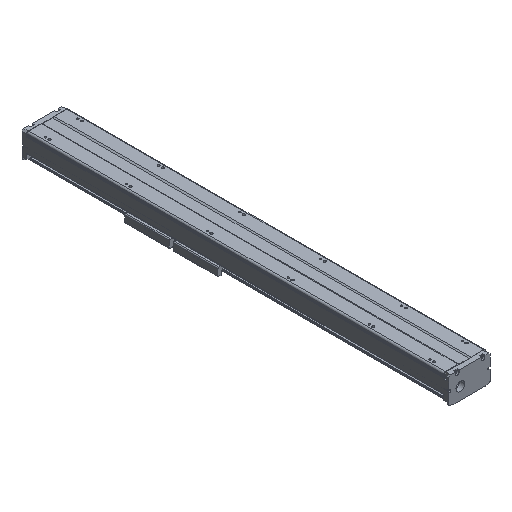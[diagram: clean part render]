
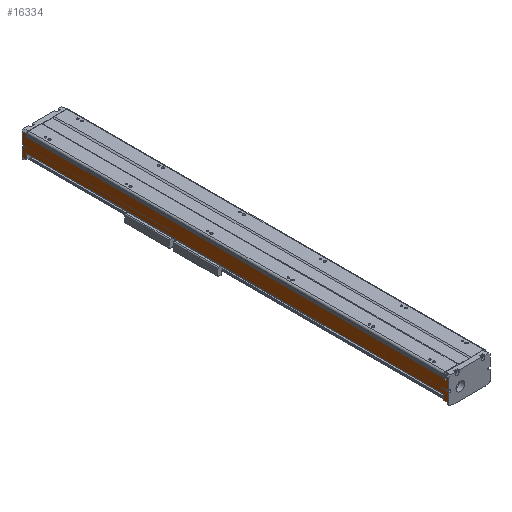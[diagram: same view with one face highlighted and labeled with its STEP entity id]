
A CAD part, isometric view. The second image highlights one B-rep face of the part: STEP entity #16334.
In plain terms, the highlighted planar face has unit normal (-1, 0, 0).
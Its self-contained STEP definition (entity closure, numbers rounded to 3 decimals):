
#3480=DIRECTION('',(0.,-1.,0.));
#3481=VECTOR('',#3480,1030.);
#3482=CARTESIAN_POINT('',(-54.192,384.5,-4.));
#3483=LINE('',#3482,#3481);
#3488=DIRECTION('',(0.,0.,1.));
#3489=VECTOR('',#3488,14.);
#3490=CARTESIAN_POINT('',(-54.192,384.5,-60.));
#3491=LINE('',#3490,#3489);
#3492=DIRECTION('',(0.,0.,1.));
#3493=VECTOR('',#3492,3.212);
#3494=CARTESIAN_POINT('',(-54.192,393.5,-63.212));
#3495=LINE('',#3494,#3493);
#3496=DIRECTION('',(0.,0.,-1.));
#3497=VECTOR('',#3496,25.712);
#3498=CARTESIAN_POINT('',(-54.192,396.5,-37.5));
#3499=LINE('',#3498,#3497);
#3500=DIRECTION('',(0.,0.,-1.));
#3501=VECTOR('',#3500,5.);
#3502=CARTESIAN_POINT('',(-54.192,392.5,-32.5));
#3503=LINE('',#3502,#3501);
#3504=DIRECTION('',(0.,0.,-1.));
#3505=VECTOR('',#3504,27.5);
#3506=CARTESIAN_POINT('',(-54.192,396.5,-5.));
#3507=LINE('',#3506,#3505);
#3508=DIRECTION('',(0.,0.,1.));
#3509=VECTOR('',#3508,2.75);
#3510=CARTESIAN_POINT('',(-54.192,-645.5,-6.75));
#3511=LINE('',#3510,#3509);
#3512=DIRECTION('',(0.,0.,1.));
#3513=VECTOR('',#3512,4.5);
#3514=CARTESIAN_POINT('',(-54.192,384.5,-11.25));
#3515=LINE('',#3514,#3513);
#3516=DIRECTION('',(0.,0.,1.));
#3517=VECTOR('',#3516,3.123);
#3518=CARTESIAN_POINT('',(-54.192,-645.5,-14.373));
#3519=LINE('',#3518,#3517);
#3520=DIRECTION('',(0.,0.,1.));
#3521=VECTOR('',#3520,27.5);
#3522=CARTESIAN_POINT('',(-54.192,-657.5,-32.5));
#3523=LINE('',#3522,#3521);
#3524=DIRECTION('',(0.,0.,1.));
#3525=VECTOR('',#3524,5.);
#3526=CARTESIAN_POINT('',(-54.192,-653.5,-37.5));
#3527=LINE('',#3526,#3525);
#3528=DIRECTION('',(0.,0.,1.));
#3529=VECTOR('',#3528,25.712);
#3530=CARTESIAN_POINT('',(-54.192,-657.5,-63.212));
#3531=LINE('',#3530,#3529);
#3532=DIRECTION('',(0.,0.,-1.));
#3533=VECTOR('',#3532,3.212);
#3534=CARTESIAN_POINT('',(-54.192,-654.5,-60.));
#3535=LINE('',#3534,#3533);
#3536=DIRECTION('',(0.,0.,-1.));
#3537=VECTOR('',#3536,14.);
#3538=CARTESIAN_POINT('',(-54.192,-645.5,-46.));
#3539=LINE('',#3538,#3537);
#3540=DIRECTION('',(0.,1.,0.));
#3541=VECTOR('',#3540,1030.);
#3542=CARTESIAN_POINT('',(-54.192,-645.5,-46.));
#3543=LINE('',#3542,#3541);
#3968=DIRECTION('',(0.,1.,0.));
#3969=VECTOR('',#3968,4.);
#3970=CARTESIAN_POINT('',(-54.192,392.5,-32.5));
#3971=LINE('',#3970,#3969);
#3984=DIRECTION('',(0.,-1.,0.));
#3985=VECTOR('',#3984,4.);
#3986=CARTESIAN_POINT('',(-54.192,396.5,-37.5));
#3987=LINE('',#3986,#3985);
#4916=DIRECTION('',(0.,-1.,0.));
#4917=VECTOR('',#4916,5.);
#4918=CARTESIAN_POINT('',(-54.192,-652.5,-5.));
#4919=LINE('',#4918,#4917);
#4924=DIRECTION('',(0.,0.,1.));
#4925=VECTOR('',#4924,9.373);
#4926=CARTESIAN_POINT('',(-54.192,-652.5,-14.373));
#4927=LINE('',#4926,#4925);
#4945=DIRECTION('',(0.,-1.,0.));
#4946=VECTOR('',#4945,7.);
#4947=CARTESIAN_POINT('',(-54.192,-645.5,-14.373));
#4948=LINE('',#4947,#4946);
#5062=DIRECTION('',(0.,-1.,0.));
#5063=VECTOR('',#5062,1030.);
#5064=CARTESIAN_POINT('',(-54.192,384.5,-11.25));
#5065=LINE('',#5064,#5063);
#5148=DIRECTION('',(0.,1.,0.));
#5149=VECTOR('',#5148,1030.);
#5150=CARTESIAN_POINT('',(-54.192,-645.5,-6.75));
#5151=LINE('',#5150,#5149);
#5807=DIRECTION('',(0.,0.,1.));
#5808=VECTOR('',#5807,1.);
#5809=CARTESIAN_POINT('',(-54.192,384.5,-5.));
#5810=LINE('',#5809,#5808);
#5819=DIRECTION('',(0.,-1.,0.));
#5820=VECTOR('',#5819,12.);
#5821=CARTESIAN_POINT('',(-54.192,396.5,-5.));
#5822=LINE('',#5821,#5820);
#6467=DIRECTION('',(0.,1.,0.));
#6468=VECTOR('',#6467,3.);
#6469=CARTESIAN_POINT('',(-54.192,393.5,-63.212));
#6470=LINE('',#6469,#6468);
#6697=DIRECTION('',(0.,1.,0.));
#6698=VECTOR('',#6697,9.);
#6699=CARTESIAN_POINT('',(-54.192,384.5,-60.));
#6700=LINE('',#6699,#6698);
#7769=DIRECTION('',(0.,1.,0.));
#7770=VECTOR('',#7769,9.);
#7771=CARTESIAN_POINT('',(-54.192,-654.5,-60.));
#7772=LINE('',#7771,#7770);
#7777=DIRECTION('',(0.,1.,0.));
#7778=VECTOR('',#7777,3.);
#7779=CARTESIAN_POINT('',(-54.192,-657.5,-63.212));
#7780=LINE('',#7779,#7778);
#7837=DIRECTION('',(0.,-1.,0.));
#7838=VECTOR('',#7837,4.);
#7839=CARTESIAN_POINT('',(-54.192,-653.5,-37.5));
#7840=LINE('',#7839,#7838);
#7883=DIRECTION('',(0.,1.,0.));
#7884=VECTOR('',#7883,4.);
#7885=CARTESIAN_POINT('',(-54.192,-657.5,-32.5));
#7886=LINE('',#7885,#7884);
#11141=CARTESIAN_POINT('',(-54.192,-645.5,-14.373));
#11142=CARTESIAN_POINT('',(-54.192,-645.5,-11.25));
#11143=VERTEX_POINT('',#11141);
#11144=VERTEX_POINT('',#11142);
#11153=CARTESIAN_POINT('',(-54.192,-645.5,-4.));
#11154=VERTEX_POINT('',#11153);
#11155=CARTESIAN_POINT('',(-54.192,-645.5,-6.75));
#11156=VERTEX_POINT('',#11155);
#11250=CARTESIAN_POINT('',(-54.192,384.5,-5.));
#11251=VERTEX_POINT('',#11250);
#11252=CARTESIAN_POINT('',(-54.192,384.5,-4.));
#11253=VERTEX_POINT('',#11252);
#11344=CARTESIAN_POINT('',(-54.192,-645.5,-46.));
#11345=CARTESIAN_POINT('',(-54.192,384.5,-46.));
#11346=VERTEX_POINT('',#11344);
#11347=VERTEX_POINT('',#11345);
#11348=CARTESIAN_POINT('',(-54.192,-645.5,-60.));
#11349=VERTEX_POINT('',#11348);
#11350=CARTESIAN_POINT('',(-54.192,-654.5,-60.));
#11351=VERTEX_POINT('',#11350);
#11352=CARTESIAN_POINT('',(-54.192,-654.5,-63.212));
#11353=VERTEX_POINT('',#11352);
#11354=CARTESIAN_POINT('',(-54.192,-657.5,-63.212));
#11355=VERTEX_POINT('',#11354);
#11356=CARTESIAN_POINT('',(-54.192,-657.5,-37.5));
#11357=VERTEX_POINT('',#11356);
#11358=CARTESIAN_POINT('',(-54.192,-653.5,-37.5));
#11359=VERTEX_POINT('',#11358);
#11360=CARTESIAN_POINT('',(-54.192,-653.5,-32.5));
#11361=VERTEX_POINT('',#11360);
#11362=CARTESIAN_POINT('',(-54.192,-657.5,-32.5));
#11363=VERTEX_POINT('',#11362);
#11364=CARTESIAN_POINT('',(-54.192,-657.5,-5.));
#11365=VERTEX_POINT('',#11364);
#11366=CARTESIAN_POINT('',(-54.192,-652.5,-5.));
#11367=VERTEX_POINT('',#11366);
#11368=CARTESIAN_POINT('',(-54.192,-652.5,-14.373));
#11369=VERTEX_POINT('',#11368);
#11370=CARTESIAN_POINT('',(-54.192,384.5,-11.25));
#11371=VERTEX_POINT('',#11370);
#11372=CARTESIAN_POINT('',(-54.192,384.5,-6.75));
#11373=VERTEX_POINT('',#11372);
#11374=CARTESIAN_POINT('',(-54.192,396.5,-5.));
#11375=VERTEX_POINT('',#11374);
#11376=CARTESIAN_POINT('',(-54.192,396.5,-32.5));
#11377=VERTEX_POINT('',#11376);
#11378=CARTESIAN_POINT('',(-54.192,392.5,-32.5));
#11379=VERTEX_POINT('',#11378);
#11380=CARTESIAN_POINT('',(-54.192,392.5,-37.5));
#11381=VERTEX_POINT('',#11380);
#11382=CARTESIAN_POINT('',(-54.192,396.5,-37.5));
#11383=VERTEX_POINT('',#11382);
#11384=CARTESIAN_POINT('',(-54.192,396.5,-63.212));
#11385=VERTEX_POINT('',#11384);
#11386=CARTESIAN_POINT('',(-54.192,393.5,-63.212));
#11387=VERTEX_POINT('',#11386);
#11388=CARTESIAN_POINT('',(-54.192,393.5,-60.));
#11389=VERTEX_POINT('',#11388);
#11390=CARTESIAN_POINT('',(-54.192,384.5,-60.));
#11391=VERTEX_POINT('',#11390);
#16268=CARTESIAN_POINT('',(-54.192,-100.,0.));
#16269=DIRECTION('',(-1.,0.,0.));
#16270=DIRECTION('',(0.,1.,0.));
#16271=AXIS2_PLACEMENT_3D('',#16268,#16269,#16270);
#16272=PLANE('',#16271);
#16274=ORIENTED_EDGE('',*,*,#16273,.T.);
#16276=ORIENTED_EDGE('',*,*,#16275,.F.);
#16278=ORIENTED_EDGE('',*,*,#16277,.T.);
#16280=ORIENTED_EDGE('',*,*,#16279,.F.);
#16282=ORIENTED_EDGE('',*,*,#16281,.T.);
#16284=ORIENTED_EDGE('',*,*,#16283,.F.);
#16286=ORIENTED_EDGE('',*,*,#16285,.T.);
#16288=ORIENTED_EDGE('',*,*,#16287,.F.);
#16290=ORIENTED_EDGE('',*,*,#16289,.T.);
#16292=ORIENTED_EDGE('',*,*,#16291,.F.);
#16294=ORIENTED_EDGE('',*,*,#16293,.T.);
#16296=ORIENTED_EDGE('',*,*,#16295,.T.);
#16297=ORIENTED_EDGE('',*,*,#16258,.T.);
#16299=ORIENTED_EDGE('',*,*,#16298,.F.);
#16301=ORIENTED_EDGE('',*,*,#16300,.T.);
#16303=ORIENTED_EDGE('',*,*,#16302,.F.);
#16305=ORIENTED_EDGE('',*,*,#16304,.T.);
#16307=ORIENTED_EDGE('',*,*,#16306,.F.);
#16309=ORIENTED_EDGE('',*,*,#16308,.T.);
#16311=ORIENTED_EDGE('',*,*,#16310,.T.);
#16313=ORIENTED_EDGE('',*,*,#16312,.T.);
#16315=ORIENTED_EDGE('',*,*,#16314,.F.);
#16317=ORIENTED_EDGE('',*,*,#16316,.T.);
#16319=ORIENTED_EDGE('',*,*,#16318,.F.);
#16321=ORIENTED_EDGE('',*,*,#16320,.T.);
#16323=ORIENTED_EDGE('',*,*,#16322,.F.);
#16325=ORIENTED_EDGE('',*,*,#16324,.T.);
#16327=ORIENTED_EDGE('',*,*,#16326,.F.);
#16329=ORIENTED_EDGE('',*,*,#16328,.T.);
#16331=ORIENTED_EDGE('',*,*,#16330,.F.);
#16332=EDGE_LOOP('',(#16274,#16276,#16278,#16280,#16282,#16284,#16286,#16288,
#16290,#16292,#16294,#16296,#16297,#16299,#16301,#16303,#16305,#16307,#16309,
#16311,#16313,#16315,#16317,#16319,#16321,#16323,#16325,#16327,#16329,#16331));
#16333=FACE_OUTER_BOUND('',#16332,.F.);
#16258=EDGE_CURVE('',#11253,#11154,#3483,.T.);
#16273=EDGE_CURVE('',#11346,#11347,#3543,.T.);
#16275=EDGE_CURVE('',#11391,#11347,#3491,.T.);
#16277=EDGE_CURVE('',#11391,#11389,#6700,.T.);
#16279=EDGE_CURVE('',#11387,#11389,#3495,.T.);
#16281=EDGE_CURVE('',#11387,#11385,#6470,.T.);
#16283=EDGE_CURVE('',#11383,#11385,#3499,.T.);
#16285=EDGE_CURVE('',#11383,#11381,#3987,.T.);
#16287=EDGE_CURVE('',#11379,#11381,#3503,.T.);
#16289=EDGE_CURVE('',#11379,#11377,#3971,.T.);
#16291=EDGE_CURVE('',#11375,#11377,#3507,.T.);
#16293=EDGE_CURVE('',#11375,#11251,#5822,.T.);
#16295=EDGE_CURVE('',#11251,#11253,#5810,.T.);
#16298=EDGE_CURVE('',#11156,#11154,#3511,.T.);
#16300=EDGE_CURVE('',#11156,#11373,#5151,.T.);
#16302=EDGE_CURVE('',#11371,#11373,#3515,.T.);
#16304=EDGE_CURVE('',#11371,#11144,#5065,.T.);
#16306=EDGE_CURVE('',#11143,#11144,#3519,.T.);
#16308=EDGE_CURVE('',#11143,#11369,#4948,.T.);
#16310=EDGE_CURVE('',#11369,#11367,#4927,.T.);
#16312=EDGE_CURVE('',#11367,#11365,#4919,.T.);
#16314=EDGE_CURVE('',#11363,#11365,#3523,.T.);
#16316=EDGE_CURVE('',#11363,#11361,#7886,.T.);
#16318=EDGE_CURVE('',#11359,#11361,#3527,.T.);
#16320=EDGE_CURVE('',#11359,#11357,#7840,.T.);
#16322=EDGE_CURVE('',#11355,#11357,#3531,.T.);
#16324=EDGE_CURVE('',#11355,#11353,#7780,.T.);
#16326=EDGE_CURVE('',#11351,#11353,#3535,.T.);
#16328=EDGE_CURVE('',#11351,#11349,#7772,.T.);
#16330=EDGE_CURVE('',#11346,#11349,#3539,.T.);
#16334=ADVANCED_FACE('',(#16333),#16272,.T.);
